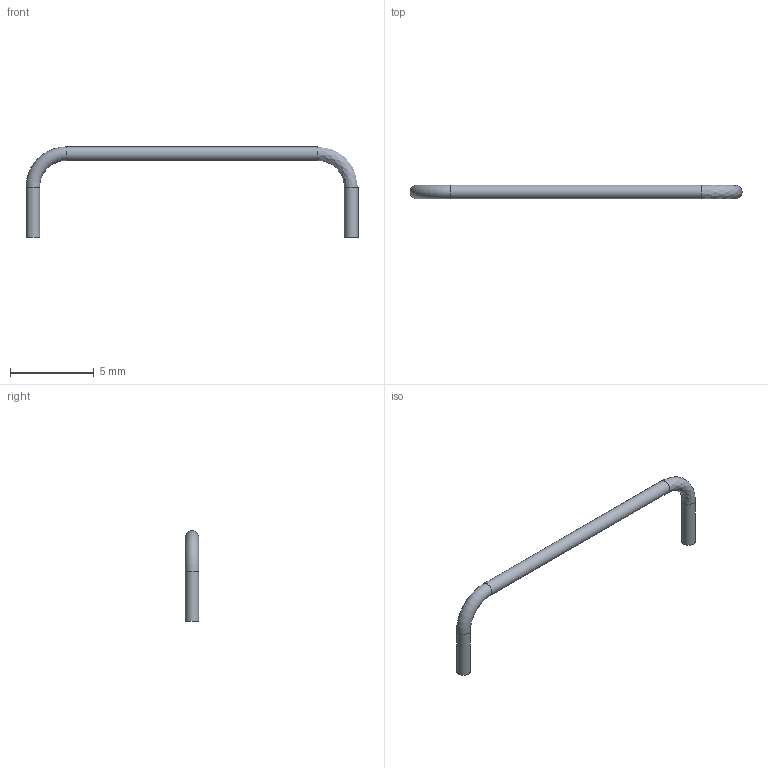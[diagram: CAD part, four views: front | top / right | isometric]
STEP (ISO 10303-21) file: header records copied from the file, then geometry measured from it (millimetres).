
FILE_DESCRIPTION(('FreeCAD Model'),'2;1');
FILE_NAME('Schematics/CV.3dshapes/Jumper_0.75in.stp','2020-09-11T00:34:30',('Author'),(''), 'Open CASCADE STEP processor 7.3','FreeCAD','Unknown');
FILE_SCHEMA(('AUTOMOTIVE_DESIGN { 1 0 10303 214 1 1 1 1 }'));
Length unit declared in the file: millimetre
Products named in the file (1): Jumper_0.75in
Bounding box: 19.87 x 0.82 x 5.41 mm (x, y, z)
Volume: 14.4 mm3; surface area: 71.3 mm2
Topology: 1 solids, 1 shells, 7 faces, 11 edges, 6 vertices
Faces by surface type: plane 2, extrusion 2, revolution 1, torus 1, cylinder 1
Full cylindrical faces by diameter (mm): 0.818 x1
Entity records: 335 total; most frequent: DIRECTION 60, CARTESIAN_POINT 48, VECTOR 25, LINE 23, ORIENTED_EDGE 22, PCURVE 22, DEFINITIONAL_REPRESENTATION 22, AXIS2_PLACEMENT_3D 16
